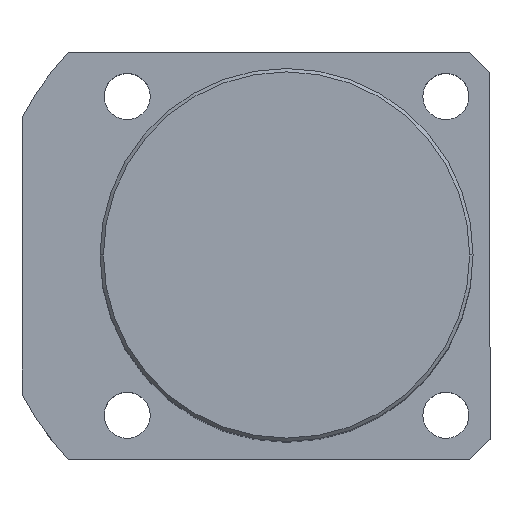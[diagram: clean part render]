
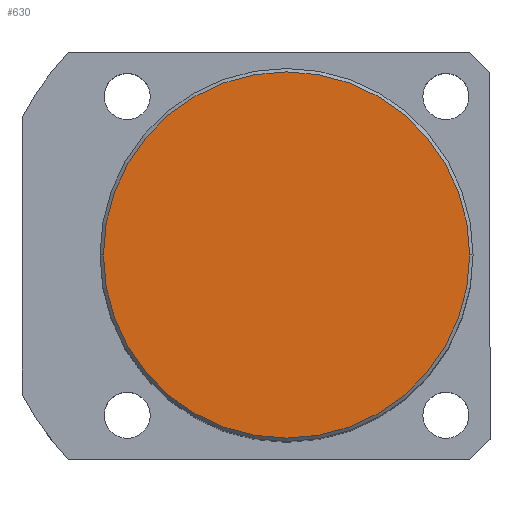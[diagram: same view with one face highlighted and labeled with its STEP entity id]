
A CAD part, top view. The second image highlights one B-rep face of the part: STEP entity #630.
In plain terms, the highlighted planar face has unit normal (0, 0, 1).
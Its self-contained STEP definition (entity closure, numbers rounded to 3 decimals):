
#13 = CARTESIAN_POINT ( 'NONE',  ( 0., 0., 85. ) ) ;
#182 = DIRECTION ( 'NONE',  ( 1., 0., 0. ) ) ;
#198 = ORIENTED_EDGE ( 'NONE', *, *, #1795, .T. ) ;
#255 = ORIENTED_EDGE ( 'NONE', *, *, #1482, .T. ) ;
#303 = CARTESIAN_POINT ( 'NONE',  ( 0., 0., 85. ) ) ;
#326 = DIRECTION ( 'NONE',  ( 0., 0., 1. ) ) ;
#354 = DIRECTION ( 'NONE',  ( 0., 0., 1. ) ) ;
#363 = AXIS2_PLACEMENT_3D ( 'NONE', #303, #326, #971 ) ;
#504 = CARTESIAN_POINT ( 'NONE',  ( 0., 0., 85. ) ) ;
#537 = CIRCLE ( 'NONE', #2089, 27. ) ;
#630 = ADVANCED_FACE ( 'NONE', ( #1378 ), #821, .T. ) ;
#821 = PLANE ( 'NONE',  #363 ) ;
#862 = DIRECTION ( 'NONE',  ( 1., 0., 0. ) ) ;
#876 = CIRCLE ( 'NONE', #1478, 27. ) ;
#971 = DIRECTION ( 'NONE',  ( 1., 0., 0. ) ) ;
#1191 = DIRECTION ( 'NONE',  ( 0., 0., 1. ) ) ;
#1332 = EDGE_LOOP ( 'NONE', ( #255, #198 ) ) ;
#1378 = FACE_OUTER_BOUND ( 'NONE', #1332, .T. ) ;
#1478 = AXIS2_PLACEMENT_3D ( 'NONE', #504, #1191, #182 ) ;
#1482 = EDGE_CURVE ( 'NONE', #2036, #1806, #537, .T. ) ;
#1584 = CARTESIAN_POINT ( 'NONE',  ( -27., 0., 85. ) ) ;
#1795 = EDGE_CURVE ( 'NONE', #1806, #2036, #876, .T. ) ;
#1806 = VERTEX_POINT ( 'NONE', #1852 ) ;
#1852 = CARTESIAN_POINT ( 'NONE',  ( 27., 0., 85. ) ) ;
#2036 = VERTEX_POINT ( 'NONE', #1584 ) ;
#2089 = AXIS2_PLACEMENT_3D ( 'NONE', #13, #354, #862 ) ;
